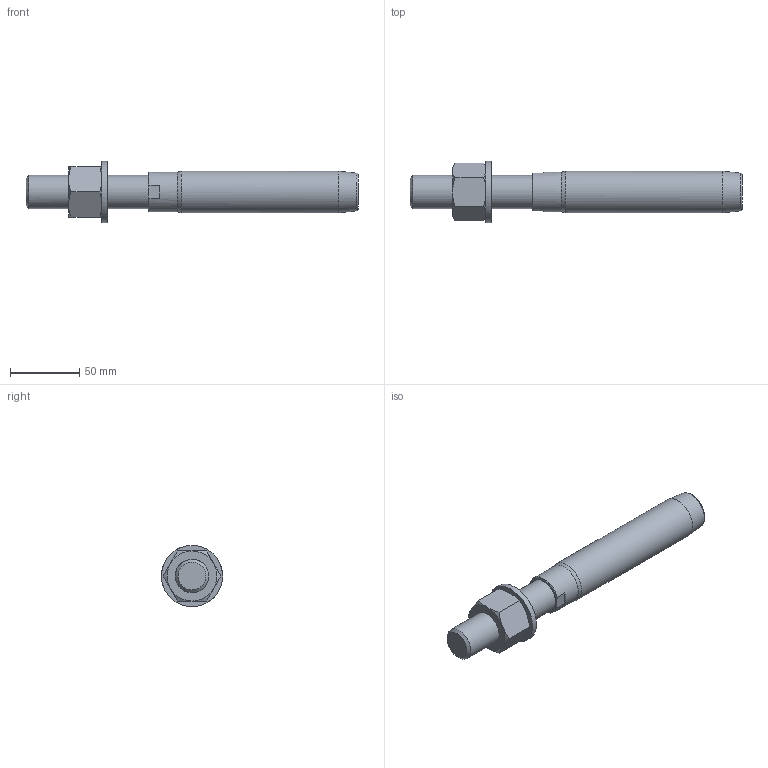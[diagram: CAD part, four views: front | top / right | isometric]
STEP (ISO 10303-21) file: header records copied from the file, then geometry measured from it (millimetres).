
FILE_DESCRIPTION(/* description */ (''),/* implementation_level */ '2;1');
FILE_NAME(/* name */ 'FLT 14_1,4462',/* time_stamp */ '2023-05-23T15:58:04+02:00',/* author */ (''),/* organization */ (''),/* preprocessor_version */ 'ST-DEVELOPER v16.5',/* originating_system */ 'Rhino 7.22',/* authorisation */ '');
FILE_SCHEMA (('CONFIG_CONTROL_DESIGN'));
Length unit declared in the file: millimetre
Products named in the file (1): Document
Bounding box: 239 x 43.98 x 43.98 mm (x, y, z)
Volume: 166572.3 mm3; surface area: 30650.1 mm2
Topology: 3 solids, 3 shells, 43 faces, 103 edges, 67 vertices
Faces by surface type: bspline 20, plane 17, cylinder 6
Full cylindrical faces by diameter (mm): 20.752 x1, 24 x1, 25 x1, 28.6 x1, 30 x1, 44 x1
Entity records: 1586 total; most frequent: CARTESIAN_POINT 881, ORIENTED_EDGE 206, EDGE_CURVE 103, VERTEX_POINT 67, EDGE_LOOP 48, ADVANCED_FACE 43, FACE_OUTER_BOUND 43, DIRECTION 27
